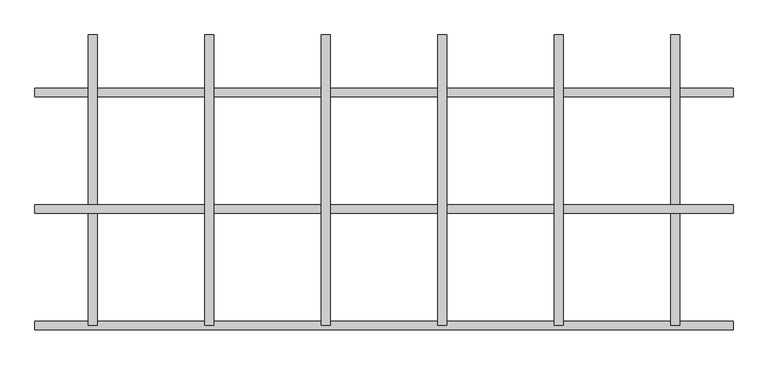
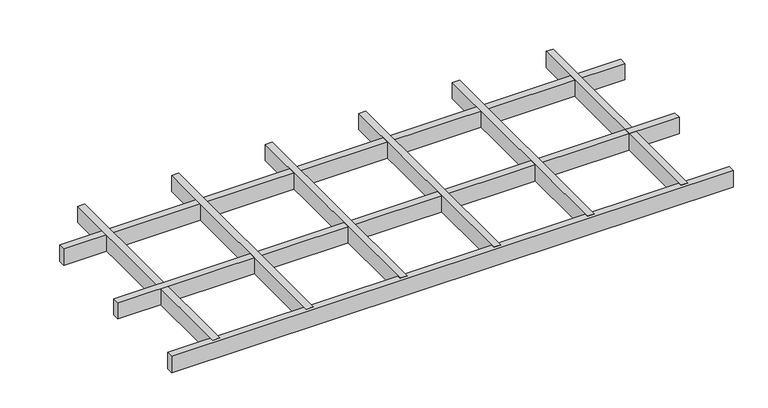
"""IFC4 building model written with IfcOpenShell, lengths in millimetres: proxy geometry, durlum_GEO_panel : durlum_GEO_15_width_cut."""

from ifc_helpers import new_model, si_unit, origin, origin_with_axes, place, context, project, spatial, polyline, outline, extrude, source, transform, mapped, element, save


def generic_models_ab05f4b6(model_context):
    return source(origin(), model_context, "Body", "SweptSolid", [
        extrude(outline(polyline([(292.5, 249.5), (307.5, 249.5), (307.5, -249.5), (292.5, -249.5), (292.5, 249.5)])), origin_with_axes(), (0.0, 0.0, 1.0), 37.0),
        extrude(outline(polyline([(92.5, 249.5), (107.5, 249.5), (107.5, -249.5), (92.5, -249.5), (92.5, 249.5)])), origin_with_axes(), (0.0, 0.0, 1.0), 37.0),
        extrude(outline(polyline([(-107.5, 249.5), (-92.5, 249.5), (-92.5, -249.5), (-107.5, -249.5), (-107.5, 249.5)])), origin_with_axes(), (0.0, 0.0, 1.0), 37.0),
        extrude(outline(polyline([(-307.5, 249.5), (-292.5, 249.5), (-292.5, -249.5), (-307.5, -249.5), (-307.5, 249.5)])), origin_with_axes(), (0.0, 0.0, 1.0), 37.0),
        extrude(outline(polyline([(599.5, -42.0), (599.5, -57.0), (-599.5, -57.0), (-599.5, -42.0), (599.5, -42.0)])), origin_with_axes(), (0.0, 0.0, 1.0), 37.0),
        extrude(outline(polyline([(492.5, 249.5), (507.5, 249.5), (507.5, -249.5), (492.5, -249.5), (492.5, 249.5)])), origin_with_axes(), (0.0, 0.0, 1.0), 37.0),
        extrude(outline(polyline([(-507.5, 249.5), (-492.5, 249.5), (-492.5, -249.5), (-507.5, -249.5), (-507.5, 249.5)])), origin_with_axes(), (0.0, 0.0, 1.0), 37.0),
        extrude(outline(polyline([(599.5, -242.0), (599.5, -257.0), (-599.5, -257.0), (-599.5, -242.0), (599.5, -242.0)])), origin_with_axes(), (0.0, 0.0, 1.0), 37.0),
        extrude(outline(polyline([(599.5, 158.0), (599.5, 143.0), (-599.5, 143.0), (-599.5, 158.0), (599.5, 158.0)])), origin_with_axes(), (0.0, 0.0, 1.0), 37.0),
    ])


if __name__ == "__main__":
    model = new_model("IFC4")
    model_context = context("Model", 3, world=origin())
    ifc_project = project(units=[si_unit("LENGTHUNIT", "METRE", prefix="MILLI")], contexts=[model_context])
    site = spatial("IfcSite", under=ifc_project)
    building = spatial("IfcBuilding", under=site)
    placement = place(None, origin())
    generic_models_shape = generic_models_ab05f4b6(model_context)
    element("IfcBuildingElementProxy", 1, Name="durlum_GEO_panel : durlum_GEO_15_width_cut", ObjectType="durlum_GEO_panel : durlum_GEO_15_width_cut", at=placement, inside=building, context=model_context, shape_type="MappedRepresentation", body=[
        mapped(generic_models_shape, transform((0.0, 0.0, 0.0), x_axis=(1.0, 0.0, 0.0), y_axis=(0.0, 1.0, 0.0), z_axis=(0.0, 0.0, 1.0))),
    ])
    save(model, "model.ifc")
